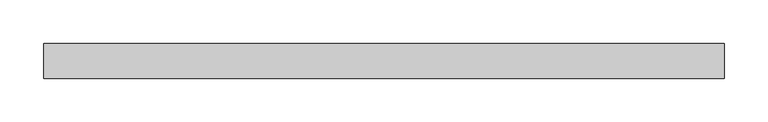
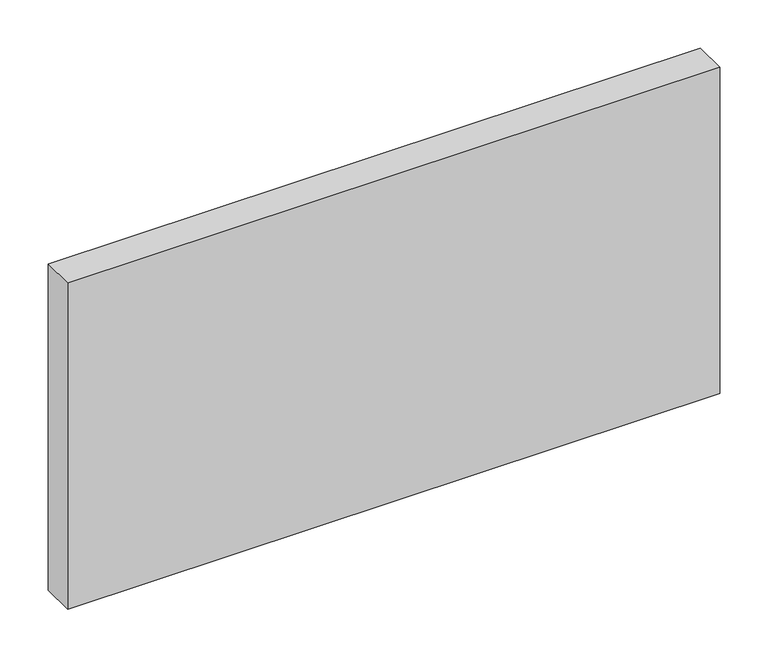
"""IFC4 building model written with IfcOpenShell, lengths in millimetres: plate geometry, Panneau système vide : Epaiss. 4cm."""

from ifc_helpers import new_model, si_unit, origin, origin_with_axes, place, context, project, spatial, polyline, outline, extrude, source, transform, mapped, element, save


def plate_a4c52b54(model_context):
    return source(origin(), model_context, "Body", "SweptSolid", [
        extrude(outline(polyline([(390.15, -20.0), (-390.15, -20.0), (-390.15, 20.0), (390.15, 20.0), (390.15, -20.0)])), origin_with_axes(), (0.0, 0.0, 1.0), 412.8823679),
    ])


if __name__ == "__main__":
    model = new_model("IFC4")
    model_context = context("Model", 3, world=origin())
    ifc_project = project(units=[si_unit("LENGTHUNIT", "METRE", prefix="MILLI")], contexts=[model_context])
    site = spatial("IfcSite", under=ifc_project)
    building = spatial("IfcBuilding", under=site)
    placement = place(None, origin())
    plate_shape = plate_a4c52b54(model_context)
    element("IfcPlate", 1, ObjectType="Panneau système vide : Epaiss. 4cm", at=placement, inside=building, context=model_context, shape_type="MappedRepresentation", body=[
        mapped(plate_shape, transform((0.0, 0.0, 0.0), x_axis=(1.0, 0.0, 0.0), y_axis=(0.0, 1.0, 0.0), z_axis=(0.0, 0.0, 1.0))),
    ])
    save(model, "model.ifc")
